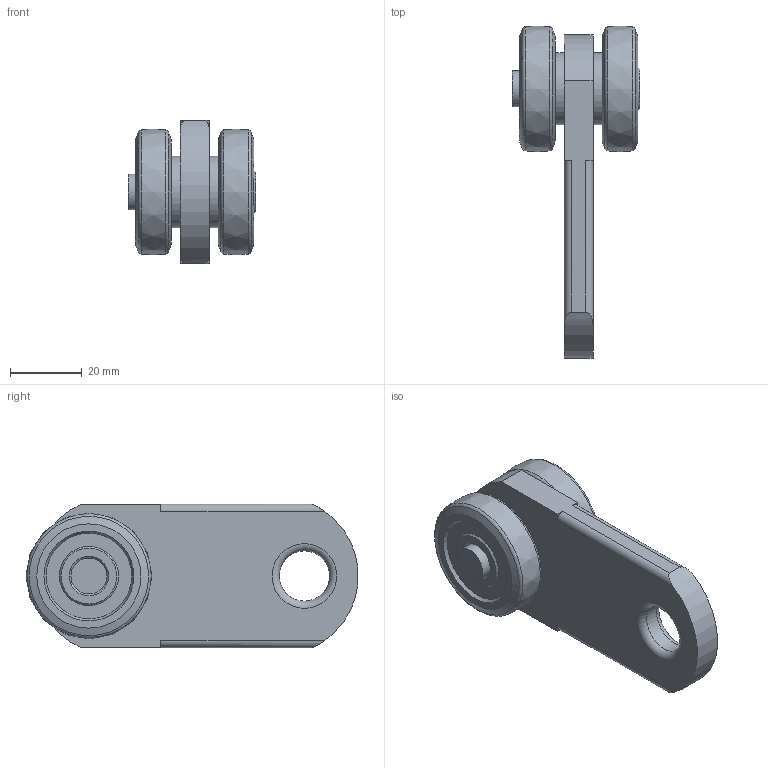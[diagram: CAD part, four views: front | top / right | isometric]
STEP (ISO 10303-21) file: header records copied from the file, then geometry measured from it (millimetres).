
FILE_DESCRIPTION(/* description */ ('Bolzen'),/* implementation_level */ '2;1');
FILE_NAME(/* name */ 'Q:\sge-ma\Produktmanagement-STB\STB\Workspace\stp\010336812.stp',/* time_stamp */ '2016-07-15T12:56:50+02:00',/* author */ ('avschreier'),/* organization */ (''),/* preprocessor_version */ 'ST-DEVELOPER v16.1',/* originating_system */ 'Autodesk Inventor 2016',/* authorisation */ '');
FILE_SCHEMA (('AUTOMOTIVE_DESIGN { 1 0 10303 214 3 1 1 }'));
Length unit declared in the file: millimetre
Products named in the file (5): 000304013; 000226094; 000336812; 000303236; 010336812
Assembly tree (6 placements, depth 2):
  010336812
    000304013
    000226094  x2
    000336812
    000303236  x2
Bounding box: 35.5 x 92.42 x 40 mm (x, y, z)
Volume: 44027.6 mm3; surface area: 17117.7 mm2
Topology: 6 solids, 6 shells, 69 faces, 132 edges, 84 vertices
Faces by surface type: plane 27, cone 17, cylinder 16, torus 7, bspline 2
Full cylindrical faces by diameter (mm): 10 x3, 10.1 x1, 10.5 x2, 12 x1, 14 x1, 20 x2
Entity records: 1319 total; most frequent: CARTESIAN_POINT 263, DIRECTION 226, ORIENTED_EDGE 146, AXIS2_PLACEMENT_3D 101, EDGE_LOOP 81, EDGE_CURVE 73, VERTEX_POINT 60, FACE_OUTER_BOUND 47
